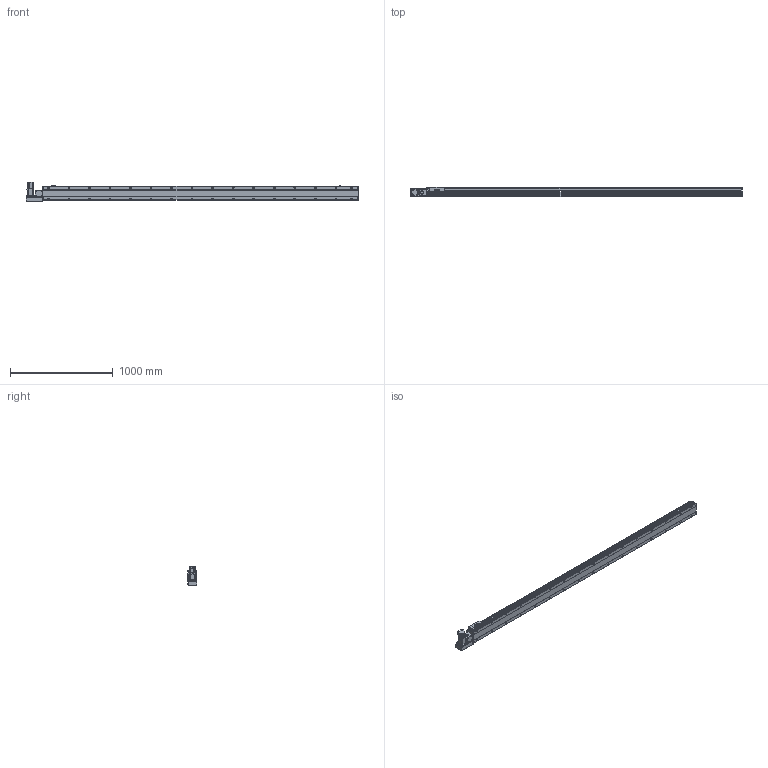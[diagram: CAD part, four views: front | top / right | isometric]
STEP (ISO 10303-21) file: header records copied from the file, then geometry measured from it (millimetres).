
FILE_DESCRIPTION( ( 'STEP AP214' ), '1' );
FILE_NAME( 'x:/temp/worker_6/temp/exporttempdir_5396_35_1CZVI/format_0/PBS140S-P40-S2800-L-T40-C1-N(0).stp', '2022-06-09T00:05:24', ( 'License CC BY-ND 4.0' ), ( 'CADENAS' ), ' ', 'PARTsolutions', ' ' );
FILE_SCHEMA( ( 'AUTOMOTIVE_DESIGN { 1 0 10303 214 1 1 1 1 }' ) );
Length unit declared in the file: millimetre
Products named in the file (7): PBS140S-P40-S2800-L-T40-C1-N(0); _PBS140S-S2800()_body; _PBS140ST-L_motors; _T40-p1; _PBS140S_sliser; _PBS140S_plant; _PBS140S_sensor
Assembly tree (8 placements, depth 2):
  PBS140S-P40-S2800-L-T40-C1-N(0)
    _PBS140S-S2800()_body
    _PBS140ST-L_motors
    _T40-p1
    _PBS140S_sliser
    _PBS140S_plant
    _PBS140S_sensor  x3
Bounding box: 3233 x 93 x 189.7 mm (x, y, z)
Volume: 15236493.7 mm3; surface area: 2560251.5 mm2
Topology: 8 solids, 8 shells, 1227 faces, 3231 edges, 2113 vertices
Faces by surface type: plane 750, cylinder 409, cone 58, sphere 8, torus 2
Full cylindrical faces by diameter (mm): 3.242 x4, 4 x2, 4.134 x4, 4.4 x8, 4.5 x2, 4.8 x4, 4.917 x40, 5.5 x7, 6 x2, 7 x34, 7.5 x8, 8 x12, 8.5 x4, 10.5 x32, 14 x1, 30 x2, 50 x2
Entity records: 45472 total; most frequent: CARTESIAN_POINT 7750, DIRECTION 5908, ORIENTED_EDGE 5542, EDGE_CURVE 2771, AXIS2_PLACEMENT_3D 2099, VERTEX_POINT 1945, LINE 1710, VECTOR 1710
